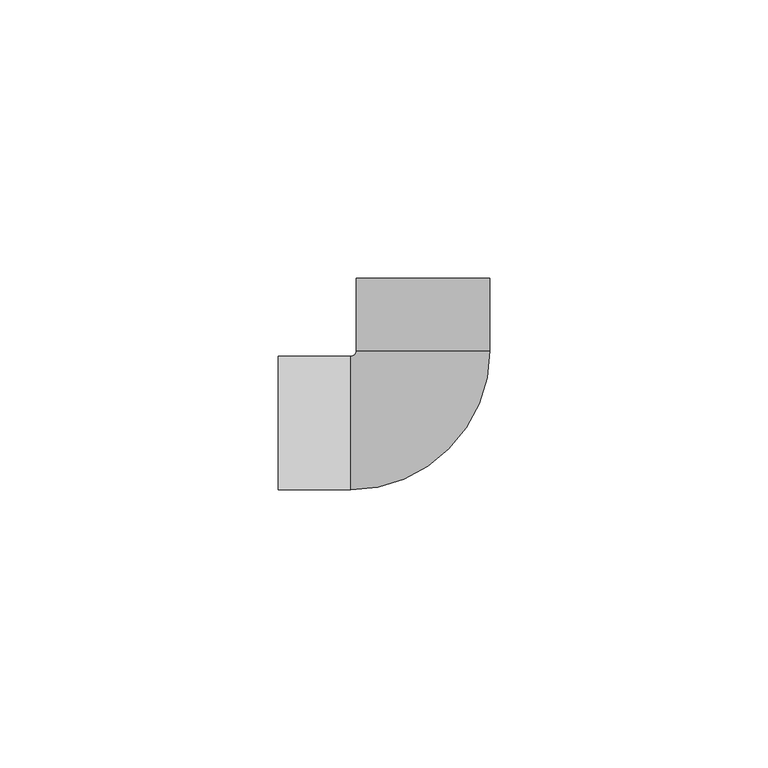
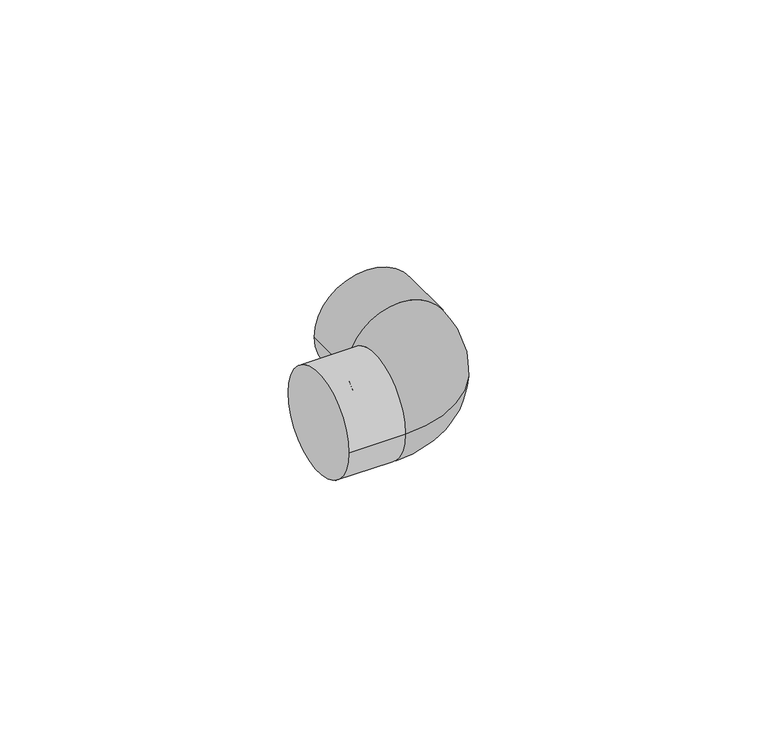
"""IFC4 building model written with IfcOpenShell, lengths in millimetres: pipe fitting geometry, KAN-therm PP kolano 90 : KAN-therm PP kolano 90."""

from ifc_helpers import new_model, si_unit, point, frame, origin, place, context, project, spatial, circle_curve, ellipse_curve, trimmed, source, transform, mapped, element, save
from ifc_brep_helpers import plane_surface, cylinder_surface, revolved_surface, advanced_brep


def pipe_fitting_c30a6e07(model_context):
    return source(origin(), model_context, "Body", "AdvancedBrep", [
        advanced_brep(
        [(-3.5, 26.0, 0.0), (20.5, 26.0, 0.0), (-3.5, 13.0, 0.0), (20.5, 13.0, 0.0), (-4.5, -12.0, 0.0), (-4.5, 12.0, 0.0), (-17.5, 12.0, 0.0), (-17.5, -12.0, 0.0)],
        [
            (0, 1, circle_curve(frame((8.5, 26.0, 0.0), z_axis=(0.0, 1.0, 0.0), x_axis=(1.0, 0.0, 0.0)), 12.0)),
            (1, 0, circle_curve(frame((8.5, 26.0, 0.0), z_axis=(0.0, 1.0, 0.0), x_axis=(1.0, 0.0, 0.0)), 12.0)),
            (0, 2),
            (2, 3, circle_curve(frame((8.5, 13.0, 0.0), z_axis=(0.0, 1.0, 0.0), x_axis=(1.0, 0.0, 0.0)), 12.0)),
            (3, 1),
            (3, 2, circle_curve(frame((8.5, 13.0, 0.0), z_axis=(0.0, 1.0, 0.0), x_axis=(1.0, 0.0, 0.0)), 12.0)),
            (4, 3, circle_curve(frame((-4.5, 13.0, 0.0), z_axis=(0.0, 0.0, 1.0), x_axis=(1.0, 0.0, 0.0)), 25.0)),
            (2, 5, circle_curve(frame((-4.5, 13.0, 0.0), z_axis=(0.0, 0.0, -1.0), x_axis=(1.0, 0.0, 0.0)), 1.0)),
            (5, 4, circle_curve(frame((-4.5, 0.0, 0.0), z_axis=(1.0, 0.0, 0.0), x_axis=(0.0, -1.0, 0.0)), 12.0)),
            (4, 5, circle_curve(frame((-4.5, 0.0, 0.0), z_axis=(1.0, 0.0, 0.0), x_axis=(0.0, -1.0, 0.0)), 12.0)),
            (6, 7, circle_curve(frame((-17.5, 0.0, 0.0), z_axis=(-1.0, 0.0, 0.0), x_axis=(0.0, -1.0, 0.0)), 12.0)),
            (7, 6, circle_curve(frame((-17.5, 0.0, 0.0), z_axis=(-1.0, 0.0, 0.0), x_axis=(0.0, -1.0, 0.0)), 12.0)),
            (5, 6),
            (7, 4),
        ],
        [
            plane_surface(frame((8.5, 26.0, 0.0), z_axis=(0.0, 1.0, 0.0), x_axis=(0.0, 0.0, 1.0))),
            cylinder_surface(frame((8.5, 26.0, 0.0), z_axis=(0.0, 1.0, 0.0), x_axis=(1.0, 0.0, 0.0)), 12.0),
            revolved_surface(trimmed(ellipse_curve(frame((8.5, 13.0, 0.0), z_axis=(0.0, 1.0, 0.0), x_axis=(1.0, 0.0, 0.0)), 12.0, 12.0), [point((-3.5, 13.0, 0.0))], [point((20.5, 13.0, 0.0))], True, "CARTESIAN"), (-4.5, 13.0, 0.0), (0.0, 0.0, -1.0)),
            revolved_surface(trimmed(ellipse_curve(frame((8.5, 13.0, 0.0), z_axis=(0.0, 1.0, 0.0), x_axis=(1.0, 0.0, 0.0)), 12.0, 12.0), [point((20.5, 13.0, 0.0))], [point((-3.5, 13.0, 0.0))], True, "CARTESIAN"), (-4.5, 13.0, 0.0), (0.0, 0.0, -1.0)),
            plane_surface(frame((-17.5, 0.0, 0.0), z_axis=(-1.0, 0.0, 0.0), x_axis=(0.0, 0.0, 1.0))),
            cylinder_surface(frame((-4.5, 0.0, 0.0), z_axis=(1.0, 0.0, 0.0), x_axis=(0.0, -1.0, 0.0)), 12.0),
        ],
        [
            (0, [[1, 2]]),
            (1, [[-1, 3, 4, 5]]),
            (1, [[-2, -5, 6, -3]]),
            (2, [[7, -4, 8, 9]]),
            (3, [[-8, -6, -7, 10]]),
            (4, [[11, 12]]),
            (5, [[-9, 13, -12, 14]]),
            (5, [[-10, -14, -11, -13]]),
        ],
    ),
    ])


if __name__ == "__main__":
    model = new_model("IFC4")
    model_context = context("Model", 3, world=origin())
    ifc_project = project(units=[si_unit("LENGTHUNIT", "METRE", prefix="MILLI")], contexts=[model_context])
    site = spatial("IfcSite", under=ifc_project)
    building = spatial("IfcBuilding", under=site)
    placement = place(None, origin())
    pipe_fitting_shape = pipe_fitting_c30a6e07(model_context)
    element("IfcPipeFitting", 1, ObjectType="KAN-therm PP kolano 90 : KAN-therm PP kolano 90", at=placement, inside=building, context=model_context, shape_type="MappedRepresentation", body=[
        mapped(pipe_fitting_shape, transform((0.0, 0.0, 0.0), x_axis=(1.0, 0.0, 0.0), y_axis=(0.0, 1.0, 0.0), z_axis=(0.0, 0.0, 1.0))),
    ])
    save(model, "model.ifc")
